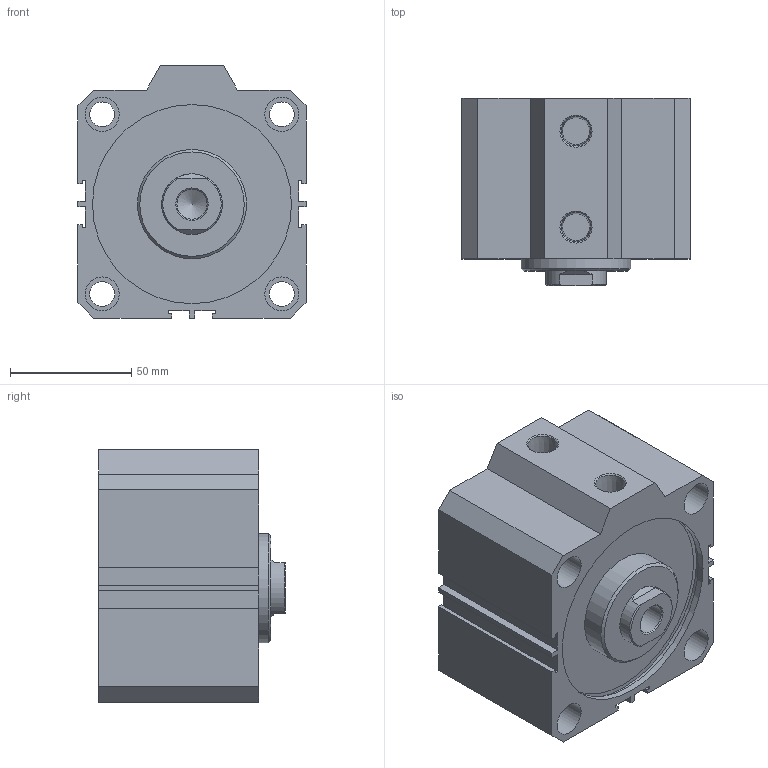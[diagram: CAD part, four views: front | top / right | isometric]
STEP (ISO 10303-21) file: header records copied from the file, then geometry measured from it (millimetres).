
FILE_DESCRIPTION(/* description */ ('Unknown'),/* implementation_level */ '2;1');
FILE_NAME(/* name */ 'WJ80-20',/* time_stamp */ '2026-08-13T10:07:26+08:00',/* author */ ('Unknown'),/* organization */ ('Unknown'),/* preprocessor_version */ 'ST-DEVELOPER v16.7',/* originating_system */ 'DEX',/* authorisation */ $);
FILE_SCHEMA (('CONFIG_CONTROL_DESIGN'));
Length unit declared in the file: millimetre
Products named in the file (5): WJ80-20; WJ80_セ珨; WJ80_«entationRefs; WJ80_後; WJ80_心軸活
Assembly tree (4 placements, depth 2):
  WJ80-20
    WJ80_セ珨
    WJ80_«entationRefs
    WJ80_後
    WJ80_心軸活
Bounding box: 94 x 77 x 104 mm (x, y, z)
Volume: 427765.4 mm3; surface area: 110428.3 mm2
Topology: 4 solids, 4 shells, 122 faces, 288 edges, 195 vertices
Faces by surface type: plane 81, cylinder 29, cone 12
Full cylindrical faces by diameter (mm): 10.2 x4, 11.2 x2, 12.376 x1, 14 x8, 25 x2, 45 x2, 79.5 x1, 80 x1, 82 x6, 85.5 x2
Entity records: 4033 total; most frequent: DIRECTION 554, CARTESIAN_POINT 546, ORIENTED_EDGE 460, EDGE_CURVE 230, AXIS2_PLACEMENT_3D 201, FACE_BOUND 195, EDGE_LOOP 194, VERTEX_POINT 177
